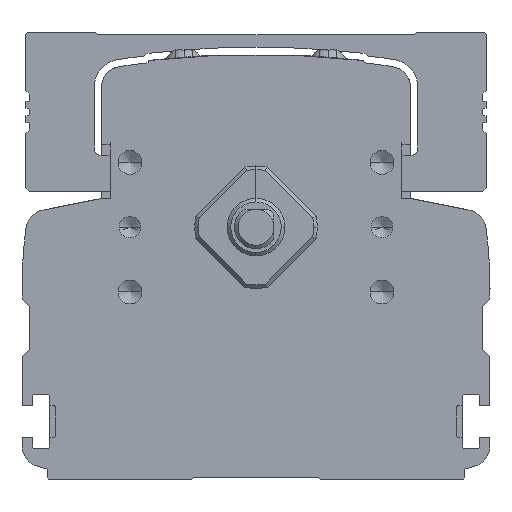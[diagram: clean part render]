
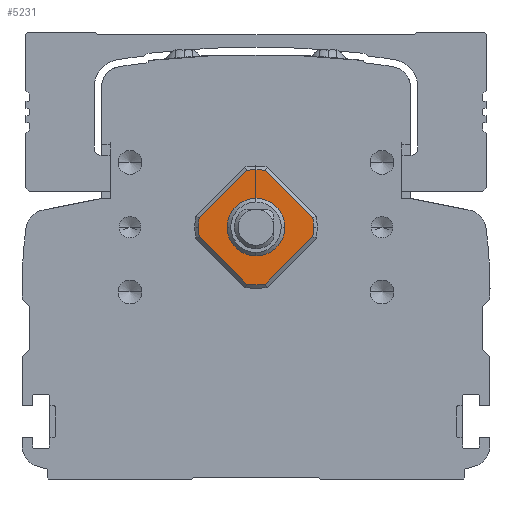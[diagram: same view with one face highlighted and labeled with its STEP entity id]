
A CAD part, front view. The second image highlights one B-rep face of the part: STEP entity #5231.
In plain terms, the highlighted planar face has unit normal (0, -1, 0).
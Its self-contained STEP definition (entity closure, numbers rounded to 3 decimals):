
#5231=ADVANCED_FACE('',(#10368,#10369),#10370,.T.);
#10368=FACE_OUTER_BOUND('',#16323,.T.);
#10369=FACE_BOUND('',#16324,.T.);
#10370=PLANE('',#16325);
#16323=EDGE_LOOP('',(#31077,#31078,#31079,#31080,#31081,#31082,#31083,#31084,#31085,#31086));
#16324=EDGE_LOOP('',(#31087,#31088));
#16325=AXIS2_PLACEMENT_3D('',#31089,#31090,#31091);
#31077=ORIENTED_EDGE('',*,*,#32927,.T.);
#31078=ORIENTED_EDGE('',*,*,#35330,.T.);
#31079=ORIENTED_EDGE('',*,*,#34951,.T.);
#31080=ORIENTED_EDGE('',*,*,#34277,.T.);
#31081=ORIENTED_EDGE('',*,*,#35058,.T.);
#31082=ORIENTED_EDGE('',*,*,#34864,.T.);
#31083=ORIENTED_EDGE('',*,*,#34976,.T.);
#31084=ORIENTED_EDGE('',*,*,#32805,.T.);
#31085=ORIENTED_EDGE('',*,*,#32566,.T.);
#31086=ORIENTED_EDGE('',*,*,#36819,.T.);
#31087=ORIENTED_EDGE('',*,*,#35474,.T.);
#31088=ORIENTED_EDGE('',*,*,#32253,.T.);
#31089=CARTESIAN_POINT('',(300.,133.0,9.899));
#31090=DIRECTION('',(0.,-1.0,0.));
#31091=DIRECTION('',(1.0,0.,0.));
#32253=EDGE_CURVE('',#38916,#38913,#38917,.F.);
#32566=EDGE_CURVE('',#39436,#39440,#39442,.F.);
#32805=EDGE_CURVE('',#39828,#39436,#39829,.F.);
#32927=EDGE_CURVE('',#40026,#40024,#40027,.F.);
#34277=EDGE_CURVE('',#42129,#42134,#42136,.F.);
#34864=EDGE_CURVE('',#42972,#42976,#42978,.F.);
#34951=EDGE_CURVE('',#43104,#42129,#43105,.F.);
#34976=EDGE_CURVE('',#42976,#39828,#43135,.T.);
#35058=EDGE_CURVE('',#42134,#42972,#43239,.T.);
#35330=EDGE_CURVE('',#40024,#43104,#43576,.T.);
#35474=EDGE_CURVE('',#38913,#38916,#43761,.F.);
#36819=EDGE_CURVE('',#39440,#40026,#45375,.T.);
#38913=VERTEX_POINT('',#48292);
#38916=VERTEX_POINT('',#48296);
#38917=CIRCLE('',#48297,4.);
#39436=VERTEX_POINT('',#49015);
#39440=VERTEX_POINT('',#49020);
#39442=CIRCLE('',#49025,8.0);
#39828=VERTEX_POINT('',#49616);
#39829=CIRCLE('',#49617,8.0);
#40024=VERTEX_POINT('',#49891);
#40026=VERTEX_POINT('',#49896);
#40027=CIRCLE('',#49897,8.0);
#42129=VERTEX_POINT('',#52911);
#42134=VERTEX_POINT('',#52917);
#42136=CIRCLE('',#52922,8.0);
#42972=VERTEX_POINT('',#54196);
#42976=VERTEX_POINT('',#54203);
#42978=CIRCLE('',#54208,8.0);
#43104=VERTEX_POINT('',#54398);
#43105=CIRCLE('',#54399,8.0);
#43135=LINE('',#54439,#54440);
#43239=LINE('',#54616,#54617);
#43576=LINE('',#55071,#55072);
#43761=CIRCLE('',#55369,4.);
#45375=LINE('',#57734,#57735);
#48292=CARTESIAN_POINT('',(304.,133.0,0.));
#48296=CARTESIAN_POINT('',(296.,133.0,0.));
#48297=AXIS2_PLACEMENT_3D('',#59243,#59244,#59245);
#49015=CARTESIAN_POINT('',(292.,133.0,0.));
#49020=CARTESIAN_POINT('',(292.106,133.0,-1.298));
#49025=AXIS2_PLACEMENT_3D('',#59596,#59597,#59598);
#49616=CARTESIAN_POINT('',(292.106,133.0,1.298));
#49617=AXIS2_PLACEMENT_3D('',#59859,#59860,#59861);
#49891=CARTESIAN_POINT('',(301.298,133.0,-7.894));
#49896=CARTESIAN_POINT('',(298.702,133.0,-7.894));
#49897=AXIS2_PLACEMENT_3D('',#59999,#60000,#60001);
#52911=CARTESIAN_POINT('',(308.,133.0,0.));
#52917=CARTESIAN_POINT('',(307.894,133.0,1.298));
#52922=AXIS2_PLACEMENT_3D('',#61608,#61609,#61610);
#54196=CARTESIAN_POINT('',(301.298,133.0,7.894));
#54203=CARTESIAN_POINT('',(298.702,133.0,7.894));
#54208=AXIS2_PLACEMENT_3D('',#62256,#62257,#62258);
#54398=CARTESIAN_POINT('',(307.894,133.0,-1.298));
#54399=AXIS2_PLACEMENT_3D('',#62344,#62345,#62346);
#54439=CARTESIAN_POINT('',(298.702,133.0,7.894));
#54440=VECTOR('',#62372,1000.0);
#54616=CARTESIAN_POINT('',(307.894,133.0,1.298));
#54617=VECTOR('',#62467,1000.0);
#55071=CARTESIAN_POINT('',(301.298,133.0,-7.894));
#55072=VECTOR('',#62753,1000.0);
#55369=AXIS2_PLACEMENT_3D('',#62923,#62924,#62925);
#57734=CARTESIAN_POINT('',(292.106,133.0,-1.298));
#57735=VECTOR('',#64114,1000.0);
#59243=CARTESIAN_POINT('',(300.,133.0,0.));
#59244=DIRECTION('',(0.,-1.0,0.));
#59245=DIRECTION('',(1.0,0.,0.));
#59596=CARTESIAN_POINT('',(300.,133.0,0.));
#59597=DIRECTION('',(0.,1.0,0.));
#59598=DIRECTION('',(-1.0,0.,0.));
#59859=CARTESIAN_POINT('',(300.,133.0,0.));
#59860=DIRECTION('',(0.,1.0,0.));
#59861=DIRECTION('',(-1.0,0.,0.));
#59999=CARTESIAN_POINT('',(300.,133.0,0.));
#60000=DIRECTION('',(0.,1.0,0.));
#60001=DIRECTION('',(-1.0,0.,0.));
#61608=CARTESIAN_POINT('',(300.,133.0,0.));
#61609=DIRECTION('',(0.,1.0,0.));
#61610=DIRECTION('',(-1.0,0.,0.));
#62256=CARTESIAN_POINT('',(300.,133.0,0.));
#62257=DIRECTION('',(0.,1.0,0.));
#62258=DIRECTION('',(-1.0,0.,0.));
#62344=CARTESIAN_POINT('',(300.,133.0,0.));
#62345=DIRECTION('',(0.,1.0,0.));
#62346=DIRECTION('',(-1.0,0.,0.));
#62372=DIRECTION('',(-0.707,0.,-0.707));
#62467=DIRECTION('',(-0.707,0.,0.707));
#62753=DIRECTION('',(0.707,0.,0.707));
#62923=CARTESIAN_POINT('',(300.,133.0,0.));
#62924=DIRECTION('',(0.,-1.0,0.));
#62925=DIRECTION('',(1.0,0.,0.));
#64114=DIRECTION('',(0.707,0.,-0.707));
